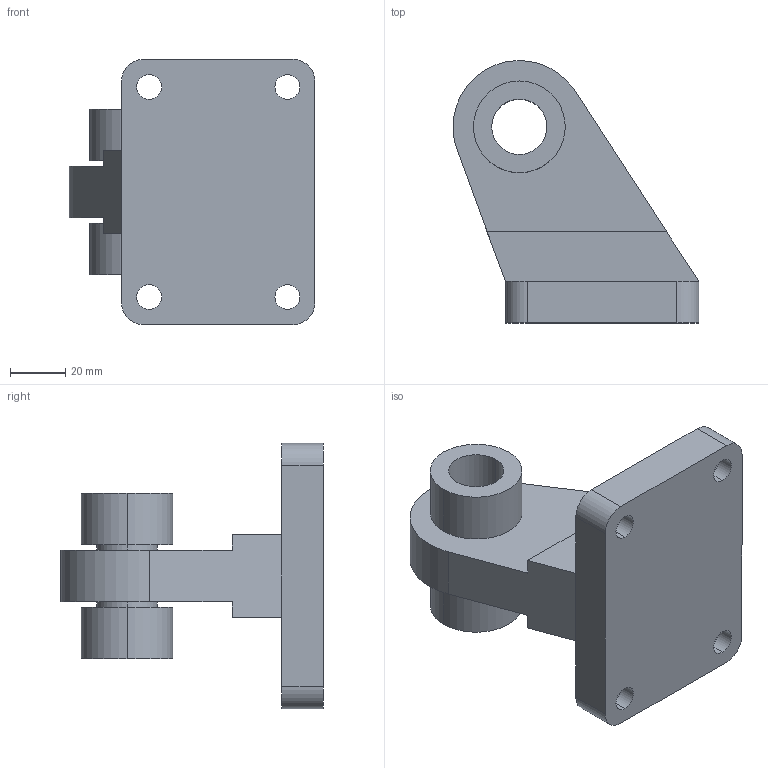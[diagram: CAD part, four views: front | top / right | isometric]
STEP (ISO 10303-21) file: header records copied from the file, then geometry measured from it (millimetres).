
FILE_DESCRIPTION (( 'STEP AP214' ), '1' );
FILE_NAME ('LNUI-S-100.STEP', '2013-09-11T13:09:36', ( '' ), ( '' ), 'SwSTEP 2.0', 'SolidWorks 2009', '' );
FILE_SCHEMA (( 'AUTOMOTIVE_DESIGN' ));
Length unit declared in the file: millimetre
Products named in the file (1): LNUI-S-100
Bounding box: 89 x 94.99 x 96 mm (x, y, z)
Volume: 202795.7 mm3; surface area: 40874.8 mm2
Topology: 1 solids, 1 shells, 54 faces, 128 edges, 84 vertices
Faces by surface type: cylinder 31, plane 23
Entity records: 1636 total; most frequent: DIRECTION 300, CARTESIAN_POINT 267, ORIENTED_EDGE 256, EDGE_CURVE 128, AXIS2_PLACEMENT_3D 117, VERTEX_POINT 84, EDGE_LOOP 72, VECTOR 66
